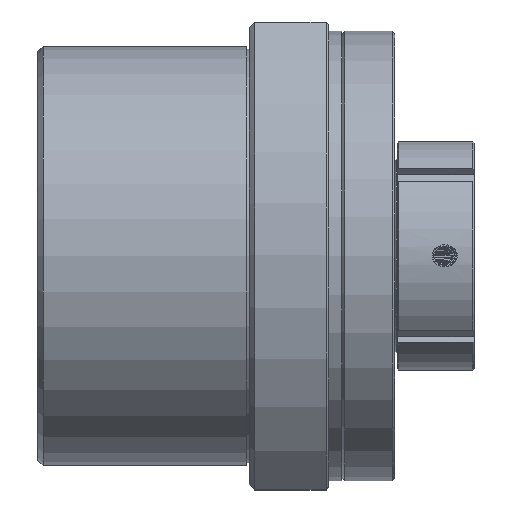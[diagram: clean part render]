
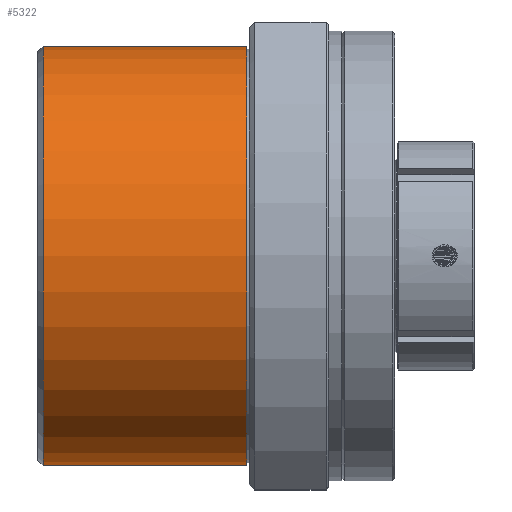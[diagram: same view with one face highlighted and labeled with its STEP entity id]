
A CAD part, top view. The second image highlights one B-rep face of the part: STEP entity #5322.
In plain terms, the highlighted cylindrical face has radius 47.5 mm (diameter 95 mm), a full revolution.
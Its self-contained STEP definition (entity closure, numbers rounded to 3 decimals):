
#4436=EDGE_CURVE('',#12323,#12323,#12324,.T.);
#5322=ADVANCED_FACE('',(#13837,#13838),#13839,.T.);
#5904=EDGE_CURVE('',#14801,#14801,#14802,.T.);
#12323=VERTEX_POINT('',#24679);
#12324=CIRCLE('',#24680,47.5);
#13837=FACE_OUTER_BOUND('',#27538,.T.);
#13838=FACE_OUTER_BOUND('',#27539,.T.);
#13839=CYLINDRICAL_SURFACE('',#27540,47.5);
#14801=VERTEX_POINT('',#29166);
#14802=CIRCLE('',#29167,47.5);
#24679=CARTESIAN_POINT('',(47.4,0.0,47.5));
#24680=AXIS2_PLACEMENT_3D('',#45109,#45110,#45111);
#27538=EDGE_LOOP('',(#46769));
#27539=EDGE_LOOP('',(#46770));
#27540=AXIS2_PLACEMENT_3D('',#46771,#46772,#46773);
#29166=CARTESIAN_POINT('',(1.2,0.0,47.5));
#29167=AXIS2_PLACEMENT_3D('',#47902,#47903,#47904);
#45109=CARTESIAN_POINT('',(47.4,0.0,0.0));
#45110=DIRECTION('',(1.0,0.0,-0.0));
#45111=DIRECTION('',(0.0,0.0,1.0));
#46769=ORIENTED_EDGE('',*,*,#5904,.T.);
#46770=ORIENTED_EDGE('',*,*,#4436,.F.);
#46771=CARTESIAN_POINT('',(24.3,0.0,0.0));
#46772=DIRECTION('',(-1.0,0.0,0.0));
#46773=DIRECTION('',(0.0,0.0,1.0));
#47902=CARTESIAN_POINT('',(1.2,0.0,0.0));
#47903=DIRECTION('',(1.0,0.0,-0.0));
#47904=DIRECTION('',(0.0,0.0,1.0));
